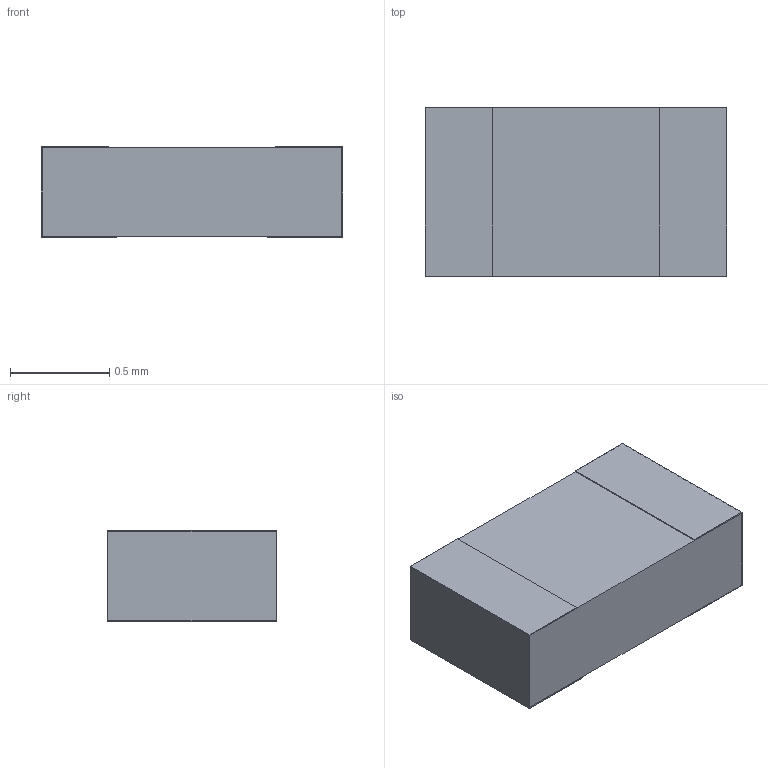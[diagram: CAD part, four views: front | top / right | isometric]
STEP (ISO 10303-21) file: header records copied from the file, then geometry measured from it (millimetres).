
FILE_DESCRIPTION(/* description */ (''),/* implementation_level */ '2;1');
FILE_NAME(/* name */ 'S:\DOCUMENT\AUTOCAD\3D_Modèles\10_3D-pour-VISHAY-COM\01_FICHIERS_ZIP_MARKETING\C4\CHPHR0603_B-or-G.stp',/* time_stamp */ '2018-01-23T13:58:49+01:00',/* author */ ('dparmentier'),/* organization */ ('unknown'),/* preprocessor_version */ 'ST-DEVELOPER v17',/* originating_system */ 'Autodesk Inventor 2018',/* authorisation */ '');
FILE_SCHEMA (('AUTOMOTIVE_DESIGN { 1 0 10303 214 3 1 1 }'));
Length unit declared in the file: millimetre
Products named in the file (1): CHPHR0603_B-or-G
Bounding box: 1.52 x 0.85 x 0.46 mm (x, y, z)
Volume: 0.6 mm3; surface area: 8.7 mm2
Topology: 3 solids, 3 shells, 26 faces, 60 edges, 40 vertices
Faces by surface type: plane 26
Entity records: 775 total; most frequent: CARTESIAN_POINT 127, ORIENTED_EDGE 120, DIRECTION 114, LINE 60, VECTOR 60, EDGE_CURVE 60, VERTEX_POINT 40, AXIS2_PLACEMENT_3D 27
